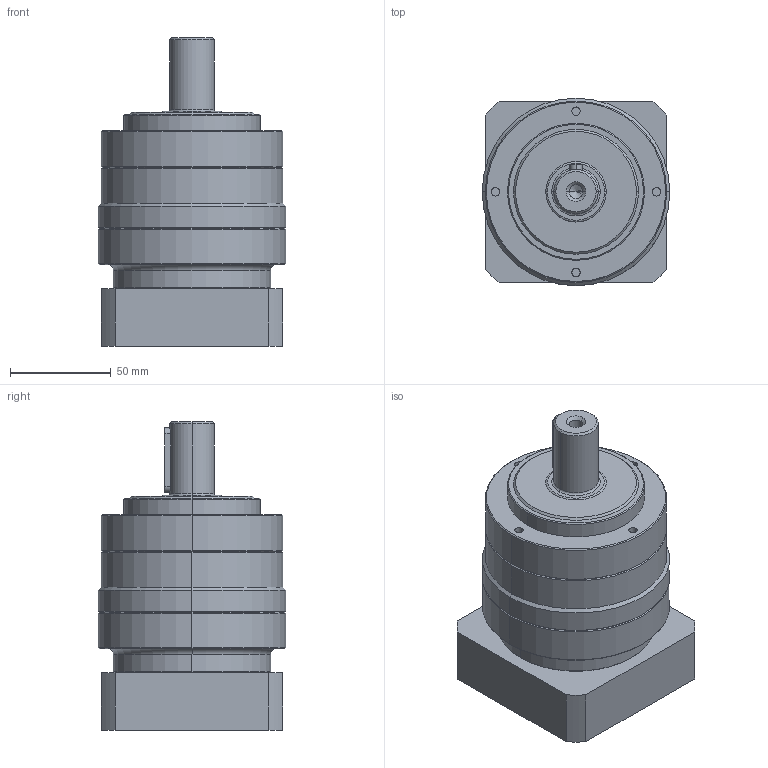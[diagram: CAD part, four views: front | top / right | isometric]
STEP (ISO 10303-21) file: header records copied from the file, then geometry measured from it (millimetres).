
FILE_DESCRIPTION (( 'STEP AP214' ), '1' );
FILE_NAME ('VRL-090-L1-S2-P1 19-70-90-M6.STEP', '2024-02-03T03:33:35', ( '微软用户' ), ( '微软中国' ), 'SwSTEP 2.0', 'SolidWorks 2018', '' );
FILE_SCHEMA (( 'AUTOMOTIVE_DESIGN' ));
Length unit declared in the file: millimetre
Products named in the file (1): VRL-090-L1-S2-P1 19-70-90-M6
Bounding box: 93 x 93 x 153 mm (x, y, z)
Volume: 698827.4 mm3; surface area: 69000.4 mm2
Topology: 1 solids, 1 shells, 109 faces, 233 edges, 143 vertices
Faces by surface type: cylinder 47, plane 30, cone 26, torus 6
Entity records: 3061 total; most frequent: DIRECTION 575, CARTESIAN_POINT 547, ORIENTED_EDGE 462, AXIS2_PLACEMENT_3D 237, EDGE_CURVE 231, VERTEX_POINT 143, EDGE_LOOP 128, CIRCLE 127
